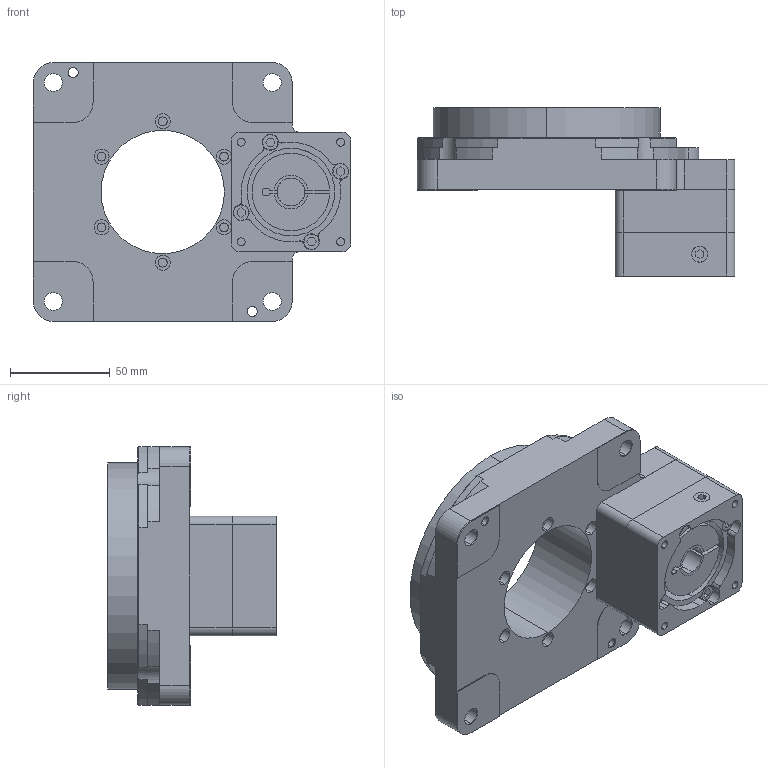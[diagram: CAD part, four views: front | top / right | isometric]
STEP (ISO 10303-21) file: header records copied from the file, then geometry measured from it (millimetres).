
FILE_DESCRIPTION (( 'STEP AP214' ), '1' );
FILE_NAME ('TS130-10K侜督400W 朴14.STEP', '2020-05-13T12:56:30', ( '' ), ( '' ), 'SwSTEP 2.0', 'SolidWorks 2020', '' );
FILE_SCHEMA (( 'AUTOMOTIVE_DESIGN' ));
Length unit declared in the file: millimetre
Products named in the file (1): TS130-10K侜督400W 朴14
Bounding box: 159.4 x 84.5 x 130 mm (x, y, z)
Volume: 586765 mm3; surface area: 101868.6 mm2
Topology: 7 solids, 7 shells, 362 faces, 901 edges, 588 vertices
Faces by surface type: cylinder 194, plane 148, cone 20
Entity records: 11017 total; most frequent: DIRECTION 2011, CARTESIAN_POINT 1912, ORIENTED_EDGE 1778, EDGE_CURVE 889, AXIS2_PLACEMENT_3D 779, VERTEX_POINT 588, LINE 453, VECTOR 453
